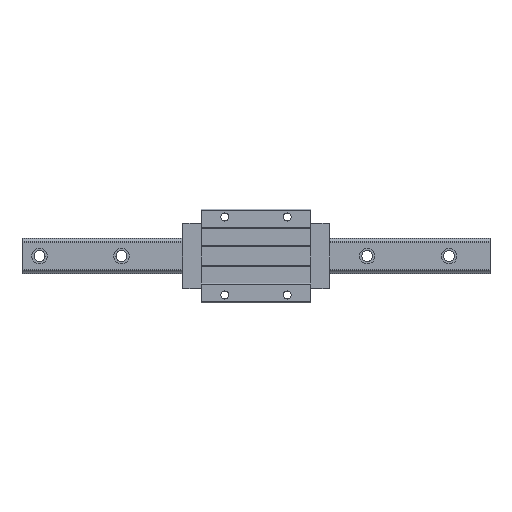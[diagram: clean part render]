
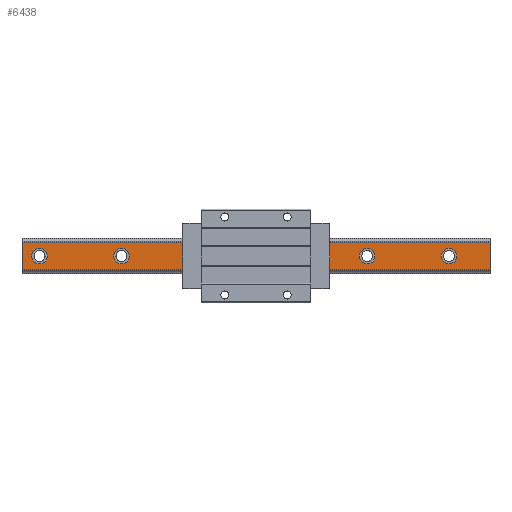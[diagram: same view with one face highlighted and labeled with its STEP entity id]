
A CAD part, top view. The second image highlights one B-rep face of the part: STEP entity #6438.
In plain terms, the highlighted planar face has unit normal (0, 0, 1).
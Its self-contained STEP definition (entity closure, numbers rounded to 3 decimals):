
#29 = VERTEX_POINT ( 'NONE', #3783 ) ;
#31 = CARTESIAN_POINT ( 'NONE',  ( -182.5, 0., 32. ) ) ;
#69 = DIRECTION ( 'NONE',  ( 0., -1., 0. ) ) ;
#70 = DIRECTION ( 'NONE',  ( 1., 0., 0. ) ) ;
#158 = EDGE_LOOP ( 'NONE', ( #5746, #2298 ) ) ;
#280 = CIRCLE ( 'NONE', #1008, 10. ) ;
#352 = VERTEX_POINT ( 'NONE', #31 ) ;
#366 = VECTOR ( 'NONE', #3754, 1000. ) ;
#394 = EDGE_LOOP ( 'NONE', ( #7002, #5839 ) ) ;
#441 = AXIS2_PLACEMENT_3D ( 'NONE', #992, #6049, #6712 ) ;
#482 = DIRECTION ( 'NONE',  ( 1., 0., 0. ) ) ;
#495 = DIRECTION ( 'NONE',  ( 1., 0., 0. ) ) ;
#514 = CARTESIAN_POINT ( 'NONE',  ( -300., -17.738, 32. ) ) ;
#594 = CIRCLE ( 'NONE', #1906, 10. ) ;
#668 = ORIENTED_EDGE ( 'NONE', *, *, #7196, .F. ) ;
#762 = VERTEX_POINT ( 'NONE', #3626 ) ;
#777 = VERTEX_POINT ( 'NONE', #6010 ) ;
#992 = CARTESIAN_POINT ( 'NONE',  ( 37.5, 0., 32. ) ) ;
#997 = EDGE_CURVE ( 'NONE', #3094, #29, #6852, .T. ) ;
#1008 = AXIS2_PLACEMENT_3D ( 'NONE', #6949, #1894, #6400 ) ;
#1011 = FACE_BOUND ( 'NONE', #158, .T. ) ;
#1114 = CARTESIAN_POINT ( 'NONE',  ( -67.5, 0., 32. ) ) ;
#1130 = VERTEX_POINT ( 'NONE', #514 ) ;
#1185 = ORIENTED_EDGE ( 'NONE', *, *, #4167, .T. ) ;
#1210 = AXIS2_PLACEMENT_3D ( 'NONE', #4838, #7111, #4279 ) ;
#1218 = DIRECTION ( 'NONE',  ( 0., 0., 1. ) ) ;
#1348 = DIRECTION ( 'NONE',  ( 1., 0., 0. ) ) ;
#1502 = CARTESIAN_POINT ( 'NONE',  ( 300., -17.738, 32. ) ) ;
#1538 = FACE_BOUND ( 'NONE', #4579, .T. ) ;
#1579 = CIRCLE ( 'NONE', #5251, 10. ) ;
#1636 = AXIS2_PLACEMENT_3D ( 'NONE', #5073, #5181, #70 ) ;
#1650 = FACE_BOUND ( 'NONE', #1870, .T. ) ;
#1750 = VECTOR ( 'NONE', #2570, 1000. ) ;
#1760 = DIRECTION ( 'NONE',  ( 1., 0., 0. ) ) ;
#1817 = EDGE_LOOP ( 'NONE', ( #3606, #3687 ) ) ;
#1870 = EDGE_LOOP ( 'NONE', ( #4680, #7125 ) ) ;
#1894 = DIRECTION ( 'NONE',  ( 0., 0., 1. ) ) ;
#1906 = AXIS2_PLACEMENT_3D ( 'NONE', #3856, #6710, #495 ) ;
#2008 = LINE ( 'NONE', #3829, #366 ) ;
#2135 = VERTEX_POINT ( 'NONE', #6885 ) ;
#2244 = DIRECTION ( 'NONE',  ( 0., 0., 1. ) ) ;
#2298 = ORIENTED_EDGE ( 'NONE', *, *, #4420, .F. ) ;
#2341 = CARTESIAN_POINT ( 'NONE',  ( 247.5, 0., 32. ) ) ;
#2345 = CARTESIAN_POINT ( 'NONE',  ( -172.5, 0., 32. ) ) ;
#2380 = DIRECTION ( 'NONE',  ( 0., 0., 1. ) ) ;
#2381 = EDGE_LOOP ( 'NONE', ( #668, #7017 ) ) ;
#2447 = CARTESIAN_POINT ( 'NONE',  ( 300., 17.738, 32. ) ) ;
#2570 = DIRECTION ( 'NONE',  ( -1., 0., 0. ) ) ;
#2577 = DIRECTION ( 'NONE',  ( 0., -1., 0. ) ) ;
#2580 = EDGE_LOOP ( 'NONE', ( #6122, #5324, #3762, #1185 ) ) ;
#2594 = ORIENTED_EDGE ( 'NONE', *, *, #6634, .F. ) ;
#2657 = FACE_OUTER_BOUND ( 'NONE', #2580, .T. ) ;
#2689 = FACE_BOUND ( 'NONE', #394, .T. ) ;
#2906 = AXIS2_PLACEMENT_3D ( 'NONE', #2345, #2380, #1348 ) ;
#2917 = EDGE_CURVE ( 'NONE', #6520, #2135, #3169, .T. ) ;
#3049 = CARTESIAN_POINT ( 'NONE',  ( 300., 17.738, 32. ) ) ;
#3094 = VERTEX_POINT ( 'NONE', #4676 ) ;
#3097 = LINE ( 'NONE', #1502, #3124 ) ;
#3124 = VECTOR ( 'NONE', #2577, 1000. ) ;
#3146 = VERTEX_POINT ( 'NONE', #4122 ) ;
#3169 = CIRCLE ( 'NONE', #7194, 10. ) ;
#3295 = VECTOR ( 'NONE', #69, 1000. ) ;
#3505 = EDGE_CURVE ( 'NONE', #29, #3094, #6734, .T. ) ;
#3600 = CARTESIAN_POINT ( 'NONE',  ( -267.5, 0., 32. ) ) ;
#3606 = ORIENTED_EDGE ( 'NONE', *, *, #6075, .F. ) ;
#3626 = CARTESIAN_POINT ( 'NONE',  ( 132.5, 0., 32. ) ) ;
#3655 = EDGE_CURVE ( 'NONE', #5477, #1130, #4630, .T. ) ;
#3687 = ORIENTED_EDGE ( 'NONE', *, *, #2917, .F. ) ;
#3691 = EDGE_CURVE ( 'NONE', #762, #4102, #4477, .T. ) ;
#3701 = AXIS2_PLACEMENT_3D ( 'NONE', #1114, #4628, #6239 ) ;
#3754 = DIRECTION ( 'NONE',  ( -1., 0., 0. ) ) ;
#3762 = ORIENTED_EDGE ( 'NONE', *, *, #6365, .F. ) ;
#3783 = CARTESIAN_POINT ( 'NONE',  ( 27.5, 0., 32. ) ) ;
#3829 = CARTESIAN_POINT ( 'NONE',  ( 300., -17.738, 32. ) ) ;
#3856 = CARTESIAN_POINT ( 'NONE',  ( -172.5, 0., 32. ) ) ;
#3879 = PLANE ( 'NONE',  #7033 ) ;
#4016 = DIRECTION ( 'NONE',  ( 0., 0., 1. ) ) ;
#4095 = CARTESIAN_POINT ( 'NONE',  ( 142.5, 0., 32. ) ) ;
#4102 = VERTEX_POINT ( 'NONE', #5398 ) ;
#4122 = CARTESIAN_POINT ( 'NONE',  ( -287.5, 0., 32. ) ) ;
#4163 = VERTEX_POINT ( 'NONE', #3600 ) ;
#4167 = EDGE_CURVE ( 'NONE', #5679, #5477, #5907, .T. ) ;
#4279 = DIRECTION ( 'NONE',  ( 1., 0., 0. ) ) ;
#4315 = DIRECTION ( 'NONE',  ( 0., 0., 1. ) ) ;
#4398 = EDGE_CURVE ( 'NONE', #777, #5720, #280, .T. ) ;
#4420 = EDGE_CURVE ( 'NONE', #352, #6655, #6228, .T. ) ;
#4477 = CIRCLE ( 'NONE', #6015, 10. ) ;
#4505 = CARTESIAN_POINT ( 'NONE',  ( -162.5, 0., 32. ) ) ;
#4524 = EDGE_CURVE ( 'NONE', #4163, #3146, #5409, .T. ) ;
#4544 = CIRCLE ( 'NONE', #6327, 10. ) ;
#4579 = EDGE_LOOP ( 'NONE', ( #7078, #2594 ) ) ;
#4628 = DIRECTION ( 'NONE',  ( 0., 0., 1. ) ) ;
#4630 = LINE ( 'NONE', #6899, #3295 ) ;
#4676 = CARTESIAN_POINT ( 'NONE',  ( 47.5, 0., 32. ) ) ;
#4680 = ORIENTED_EDGE ( 'NONE', *, *, #5401, .F. ) ;
#4838 = CARTESIAN_POINT ( 'NONE',  ( 142.5, 0., 32. ) ) ;
#4908 = CARTESIAN_POINT ( 'NONE',  ( -277.5, 0., 32. ) ) ;
#4910 = DIRECTION ( 'NONE',  ( 0., -1., 0. ) ) ;
#5073 = CARTESIAN_POINT ( 'NONE',  ( 37.5, 0., 32. ) ) ;
#5141 = EDGE_CURVE ( 'NONE', #6655, #352, #594, .T. ) ;
#5181 = DIRECTION ( 'NONE',  ( 0., 0., 1. ) ) ;
#5251 = AXIS2_PLACEMENT_3D ( 'NONE', #7321, #1218, #7357 ) ;
#5324 = ORIENTED_EDGE ( 'NONE', *, *, #5923, .F. ) ;
#5398 = CARTESIAN_POINT ( 'NONE',  ( 152.5, 0., 32. ) ) ;
#5401 = EDGE_CURVE ( 'NONE', #5720, #777, #6784, .T. ) ;
#5404 = DIRECTION ( 'NONE',  ( 1., 0., 0. ) ) ;
#5409 = CIRCLE ( 'NONE', #6343, 10. ) ;
#5477 = VERTEX_POINT ( 'NONE', #7051 ) ;
#5516 = DIRECTION ( 'NONE',  ( 0., 0., -1. ) ) ;
#5592 = FACE_BOUND ( 'NONE', #2381, .T. ) ;
#5595 = CARTESIAN_POINT ( 'NONE',  ( -277.5, 0., 32. ) ) ;
#5629 = CARTESIAN_POINT ( 'NONE',  ( 300., -17.738, 32. ) ) ;
#5667 = DIRECTION ( 'NONE',  ( 1., 0., 0. ) ) ;
#5679 = VERTEX_POINT ( 'NONE', #2447 ) ;
#5720 = VERTEX_POINT ( 'NONE', #5867 ) ;
#5726 = CIRCLE ( 'NONE', #1210, 10. ) ;
#5730 = CARTESIAN_POINT ( 'NONE',  ( 237.5, 0., 32. ) ) ;
#5746 = ORIENTED_EDGE ( 'NONE', *, *, #5141, .F. ) ;
#5839 = ORIENTED_EDGE ( 'NONE', *, *, #3505, .F. ) ;
#5867 = CARTESIAN_POINT ( 'NONE',  ( -57.5, 0., 32. ) ) ;
#5907 = LINE ( 'NONE', #3049, #1750 ) ;
#5923 = EDGE_CURVE ( 'NONE', #6672, #1130, #2008, .T. ) ;
#6010 = CARTESIAN_POINT ( 'NONE',  ( -77.5, 0., 32. ) ) ;
#6015 = AXIS2_PLACEMENT_3D ( 'NONE', #4095, #6330, #1760 ) ;
#6049 = DIRECTION ( 'NONE',  ( 0., 0., 1. ) ) ;
#6075 = EDGE_CURVE ( 'NONE', #2135, #6520, #1579, .T. ) ;
#6122 = ORIENTED_EDGE ( 'NONE', *, *, #3655, .T. ) ;
#6228 = CIRCLE ( 'NONE', #2906, 10. ) ;
#6239 = DIRECTION ( 'NONE',  ( 1., 0., 0. ) ) ;
#6327 = AXIS2_PLACEMENT_3D ( 'NONE', #5595, #2244, #482 ) ;
#6330 = DIRECTION ( 'NONE',  ( 0., 0., 1. ) ) ;
#6343 = AXIS2_PLACEMENT_3D ( 'NONE', #4908, #4315, #5404 ) ;
#6365 = EDGE_CURVE ( 'NONE', #5679, #6672, #3097, .T. ) ;
#6400 = DIRECTION ( 'NONE',  ( 1., 0., 0. ) ) ;
#6438 = ADVANCED_FACE ( 'NONE', ( #1538, #1011, #1650, #2689, #5592, #6622, #2657 ), #3879, .F. ) ;
#6520 = VERTEX_POINT ( 'NONE', #5730 ) ;
#6622 = FACE_BOUND ( 'NONE', #1817, .T. ) ;
#6634 = EDGE_CURVE ( 'NONE', #3146, #4163, #4544, .T. ) ;
#6655 = VERTEX_POINT ( 'NONE', #4505 ) ;
#6672 = VERTEX_POINT ( 'NONE', #6700 ) ;
#6700 = CARTESIAN_POINT ( 'NONE',  ( 300., -17.738, 32. ) ) ;
#6710 = DIRECTION ( 'NONE',  ( 0., 0., 1. ) ) ;
#6712 = DIRECTION ( 'NONE',  ( 1., 0., 0. ) ) ;
#6734 = CIRCLE ( 'NONE', #1636, 10. ) ;
#6784 = CIRCLE ( 'NONE', #3701, 10. ) ;
#6852 = CIRCLE ( 'NONE', #441, 10. ) ;
#6885 = CARTESIAN_POINT ( 'NONE',  ( 257.5, 0., 32. ) ) ;
#6899 = CARTESIAN_POINT ( 'NONE',  ( -300., -17.738, 32. ) ) ;
#6949 = CARTESIAN_POINT ( 'NONE',  ( -67.5, 0., 32. ) ) ;
#7002 = ORIENTED_EDGE ( 'NONE', *, *, #997, .F. ) ;
#7017 = ORIENTED_EDGE ( 'NONE', *, *, #3691, .F. ) ;
#7033 = AXIS2_PLACEMENT_3D ( 'NONE', #5629, #5516, #4910 ) ;
#7051 = CARTESIAN_POINT ( 'NONE',  ( -300., 17.738, 32. ) ) ;
#7078 = ORIENTED_EDGE ( 'NONE', *, *, #4524, .F. ) ;
#7111 = DIRECTION ( 'NONE',  ( 0., 0., 1. ) ) ;
#7125 = ORIENTED_EDGE ( 'NONE', *, *, #4398, .F. ) ;
#7194 = AXIS2_PLACEMENT_3D ( 'NONE', #2341, #4016, #5667 ) ;
#7196 = EDGE_CURVE ( 'NONE', #4102, #762, #5726, .T. ) ;
#7321 = CARTESIAN_POINT ( 'NONE',  ( 247.5, 0., 32. ) ) ;
#7357 = DIRECTION ( 'NONE',  ( 1., 0., 0. ) ) ;
